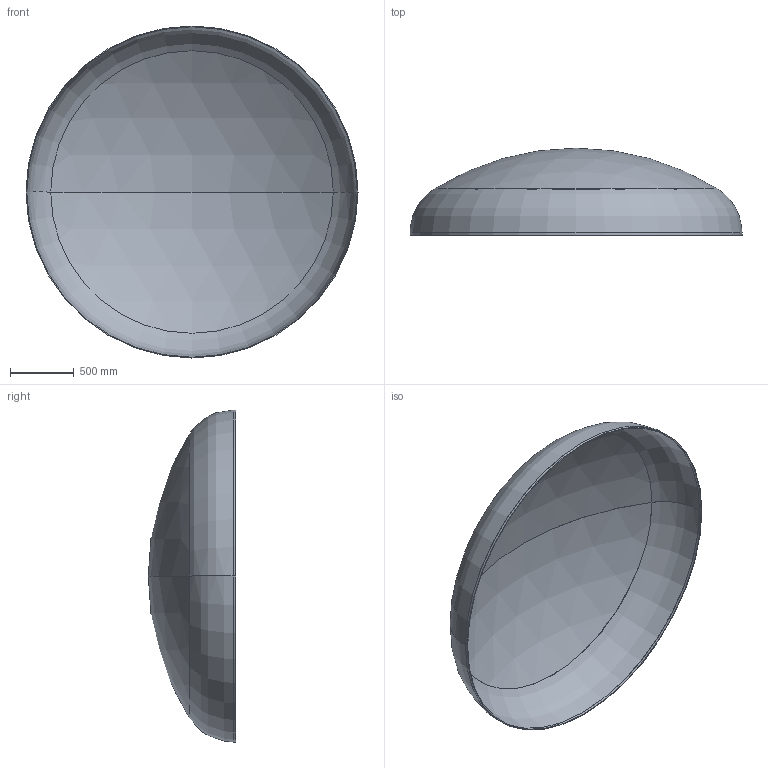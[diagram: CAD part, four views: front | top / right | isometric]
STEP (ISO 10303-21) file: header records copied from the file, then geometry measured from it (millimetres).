
FILE_DESCRIPTION (( 'STEP AP203' ), '1' );
FILE_NAME ('DIN 28013 Korbbogenform_-_Boden DIN 28013 - 2600 x 20 - I - s=6.step', '2016-07-01T15:50:34', ( '' ), ( '' ), 'SwSTEP 2.0', 'SolidWorks 2013', '' );
FILE_SCHEMA (( 'CONFIG_CONTROL_DESIGN' ));
Length unit declared in the file: millimetre
Products named in the file (1): DIN 28013 Korbbogenform_-_Boden DIN 28013 - 2600 x 20 - I - s=6
Bounding box: 2600 x 683.62 x 2600 mm (x, y, z)
Volume: 44958460.4 mm3; surface area: 15035118.5 mm2
Topology: 1 solids, 1 shells, 13 faces, 24 edges, 14 vertices
Faces by surface type: torus 4, cylinder 4, sphere 4, plane 1
Entity records: 407 total; most frequent: DIRECTION 72, CARTESIAN_POINT 52, ORIENTED_EDGE 48, AXIS2_PLACEMENT_3D 34, EDGE_CURVE 24, CIRCLE 20, EDGE_LOOP 14, VERTEX_POINT 14
